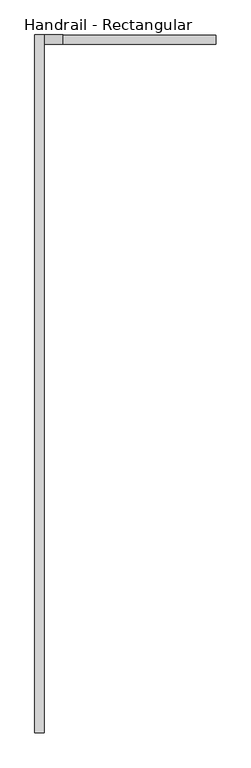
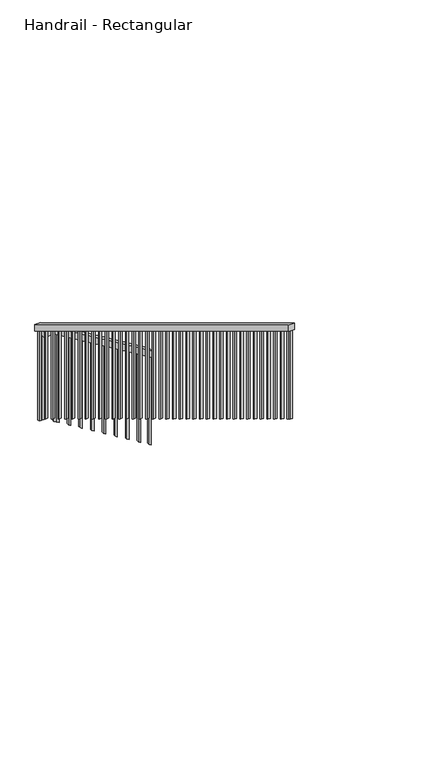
"""IFC4 building model written with IfcOpenShell, lengths in millimetres: railing geometry, Handrail - Rectangular."""

from ifc_helpers import new_model, si_unit, frame, origin, place, context, project, spatial, polyline, outline, extrude, faceted_brep, source, transform, mapped, element, save


def handrail_rectangular_1c47a4d4(model_context):
    return source(origin(), model_context, "Body", "SolidModel", [
        faceted_brep([(-197.9594474, 10218.9797491, 1083.7333333), (-197.9594474, 10218.9797491, 1024.3318731), (-197.9594474, 10269.7797491, 1024.3318731), (-197.9594474, 10269.7797491, 1083.7333333), (-1036.1594474, 10218.9797491, 1591.7333333), (-1050.3518568, 10218.9797491, 1540.9333333), (-1050.3518568, 10269.7797491, 1540.9333333), (-1036.1594474, 10269.7797491, 1591.7333333), (-1140.1500398, 10218.9797491, 1591.7333333), (-1140.1500398, 10269.7797491, 1591.7333333), (-1140.1500398, 10269.7797491, 1540.9333333), (-1140.1500398, 10218.9797491, 1540.9333333)], [[[0, 1, 2, 3]], [[1, 0, 4, 5]], [[2, 1, 5, 6]], [[3, 2, 6, 7]], [[0, 3, 7, 4]], [[8, 9, 10, 11]], [[5, 4, 8, 11]], [[6, 5, 11, 10]], [[7, 6, 10, 9]], [[4, 7, 9, 8]]]),
        faceted_brep([(-1140.1500398, 10269.7797491, 1644.3730124), (-1140.1500398, 10269.7797491, 1584.9715521), (-1190.9500398, 10269.7797491, 1584.9715521), (-1190.9500398, 10269.7797491, 1644.3730124), (-1140.1500398, 6445.0352196, 3962.4), (-1190.9500398, 6445.0352196, 3962.4), (-1190.9500398, 6445.0352196, 3902.9985397), (-1140.1500398, 6445.0352196, 3902.9985397)], [[[0, 1, 2, 3]], [[4, 5, 6, 7]], [[1, 0, 4, 7]], [[2, 1, 7, 6]], [[3, 2, 6, 5]], [[0, 3, 5, 4]]]),
        extrude(outline(polyline([(6494.7047491, 3872.8957946), (6494.7047491, 3060.6784334), (6475.6547491, 3072.223888), (6475.6547491, 3884.4412491), (6494.7047491, 3872.8957946)])), frame((-1175.0750398, 0.0, 0.0), z_axis=(1.0, 0.0, 0.0), x_axis=(0.0, 1.0, 0.0)), (0.0, 0.0, 1.0), 19.05),
        extrude(outline(polyline([(6596.3047491, 3811.320037), (6596.3047491, 2999.1026759), (6577.2547491, 3010.6481304), (6577.2547491, 3822.8654915), (6596.3047491, 3811.320037)])), frame((-1175.0750398, 0.0, 0.0), z_axis=(1.0, 0.0, 0.0), x_axis=(0.0, 1.0, 0.0)), (0.0, 0.0, 1.0), 19.05),
        extrude(outline(polyline([(6697.9047491, 3749.7442794), (6697.9047491, 2937.5269183), (6678.8547491, 2949.0723728), (6678.8547491, 3761.2897339), (6697.9047491, 3749.7442794)])), frame((-1175.0750398, 0.0, 0.0), z_axis=(1.0, 0.0, 0.0), x_axis=(0.0, 1.0, 0.0)), (0.0, 0.0, 1.0), 19.05),
        extrude(outline(polyline([(6799.5047491, 3688.1685218), (6799.5047491, 2875.9511607), (6780.4547491, 2887.4966153), (6780.4547491, 3699.7139764), (6799.5047491, 3688.1685218)])), frame((-1175.0750398, 0.0, 0.0), z_axis=(1.0, 0.0, 0.0), x_axis=(0.0, 1.0, 0.0)), (0.0, 0.0, 1.0), 19.05),
        extrude(outline(polyline([(6901.1047491, 3626.5927643), (6901.1047491, 2814.3754031), (6882.0547491, 2825.9208577), (6882.0547491, 3638.1382188), (6901.1047491, 3626.5927643)])), frame((-1175.0750398, 0.0, 0.0), z_axis=(1.0, 0.0, 0.0), x_axis=(0.0, 1.0, 0.0)), (0.0, 0.0, 1.0), 19.05),
        extrude(outline(polyline([(7002.7047491, 3565.0170067), (7002.7047491, 2752.7996456), (6983.6547491, 2764.3451001), (6983.6547491, 3576.5624612), (7002.7047491, 3565.0170067)])), frame((-1175.0750398, 0.0, 0.0), z_axis=(1.0, 0.0, 0.0), x_axis=(0.0, 1.0, 0.0)), (0.0, 0.0, 1.0), 19.05),
        extrude(outline(polyline([(7104.3047491, 3503.4412491), (7104.3047491, 2691.223888), (7085.2547491, 2702.7693425), (7085.2547491, 3514.9867036), (7104.3047491, 3503.4412491)])), frame((-1175.0750398, 0.0, 0.0), z_axis=(1.0, 0.0, 0.0), x_axis=(0.0, 1.0, 0.0)), (0.0, 0.0, 1.0), 19.05),
        extrude(outline(polyline([(7205.9047491, 3441.8654915), (7205.9047491, 2629.6481304), (7186.8547491, 2641.193585), (7186.8547491, 3453.4109461), (7205.9047491, 3441.8654915)])), frame((-1175.0750398, 0.0, 0.0), z_axis=(1.0, 0.0, 0.0), x_axis=(0.0, 1.0, 0.0)), (0.0, 0.0, 1.0), 19.05),
        extrude(outline(polyline([(7307.5047491, 3380.2897339), (7307.5047491, 2568.0723728), (7288.4547491, 2579.6178274), (7288.4547491, 3391.8351885), (7307.5047491, 3380.2897339)])), frame((-1175.0750398, 0.0, 0.0), z_axis=(1.0, 0.0, 0.0), x_axis=(0.0, 1.0, 0.0)), (0.0, 0.0, 1.0), 19.05),
        extrude(outline(polyline([(7409.1047491, 3318.7139764), (7409.1047491, 2506.4966153), (7390.0547491, 2518.0420698), (7390.0547491, 3330.2594309), (7409.1047491, 3318.7139764)])), frame((-1175.0750398, 0.0, 0.0), z_axis=(1.0, 0.0, 0.0), x_axis=(0.0, 1.0, 0.0)), (0.0, 0.0, 1.0), 19.05),
        extrude(outline(polyline([(7510.7047491, 3257.1382188), (7510.7047491, 2444.9208577), (7491.6547491, 2456.4663122), (7491.6547491, 3268.6836733), (7510.7047491, 3257.1382188)])), frame((-1175.0750398, 0.0, 0.0), z_axis=(1.0, 0.0, 0.0), x_axis=(0.0, 1.0, 0.0)), (0.0, 0.0, 1.0), 19.05),
        extrude(outline(polyline([(7612.3047491, 3195.5624612), (7612.3047491, 2383.3451001), (7593.2547491, 2394.8905546), (7593.2547491, 3207.1079158), (7612.3047491, 3195.5624612)])), frame((-1175.0750398, 0.0, 0.0), z_axis=(1.0, 0.0, 0.0), x_axis=(0.0, 1.0, 0.0)), (0.0, 0.0, 1.0), 19.05),
        extrude(outline(polyline([(7713.9047491, 3133.9867036), (7713.9047491, 2321.7693425), (7694.8547491, 2333.3147971), (7694.8547491, 3145.5321582), (7713.9047491, 3133.9867036)])), frame((-1175.0750398, 0.0, 0.0), z_axis=(1.0, 0.0, 0.0), x_axis=(0.0, 1.0, 0.0)), (0.0, 0.0, 1.0), 19.05),
        extrude(outline(polyline([(7815.5047491, 3072.4109461), (7815.5047491, 2260.193585), (7796.4547491, 2271.7390395), (7796.4547491, 3083.9564006), (7815.5047491, 3072.4109461)])), frame((-1175.0750398, 0.0, 0.0), z_axis=(1.0, 0.0, 0.0), x_axis=(0.0, 1.0, 0.0)), (0.0, 0.0, 1.0), 19.05),
        extrude(outline(polyline([(7917.1047491, 3010.8351885), (7917.1047491, 2198.6178274), (7898.0547491, 2210.1632819), (7898.0547491, 3022.380643), (7917.1047491, 3010.8351885)])), frame((-1175.0750398, 0.0, 0.0), z_axis=(1.0, 0.0, 0.0), x_axis=(0.0, 1.0, 0.0)), (0.0, 0.0, 1.0), 19.05),
        extrude(outline(polyline([(8018.7047491, 2949.2594309), (8018.7047491, 2137.0420698), (7999.6547491, 2148.5875243), (7999.6547491, 2960.8048855), (8018.7047491, 2949.2594309)])), frame((-1175.0750398, 0.0, 0.0), z_axis=(1.0, 0.0, 0.0), x_axis=(0.0, 1.0, 0.0)), (0.0, 0.0, 1.0), 19.05),
        extrude(outline(polyline([(8120.3047491, 2887.6836733), (8120.3047491, 2075.4663122), (8101.2547491, 2087.0117668), (8101.2547491, 2899.2291279), (8120.3047491, 2887.6836733)])), frame((-1175.0750398, 0.0, 0.0), z_axis=(1.0, 0.0, 0.0), x_axis=(0.0, 1.0, 0.0)), (0.0, 0.0, 1.0), 19.05),
        extrude(outline(polyline([(8221.9047491, 2826.1079158), (8221.9047491, 2013.8905546), (8202.8547491, 2025.4360092), (8202.8547491, 2837.6533703), (8221.9047491, 2826.1079158)])), frame((-1175.0750398, 0.0, 0.0), z_axis=(1.0, 0.0, 0.0), x_axis=(0.0, 1.0, 0.0)), (0.0, 0.0, 1.0), 19.05),
        extrude(outline(polyline([(8323.5047491, 2764.5321582), (8323.5047491, 1952.3147971), (8304.4547491, 1963.8602516), (8304.4547491, 2776.0776127), (8323.5047491, 2764.5321582)])), frame((-1175.0750398, 0.0, 0.0), z_axis=(1.0, 0.0, 0.0), x_axis=(0.0, 1.0, 0.0)), (0.0, 0.0, 1.0), 19.05),
        extrude(outline(polyline([(8425.1047491, 2702.9564006), (8425.1047491, 1890.7390395), (8406.0547491, 1902.284494), (8406.0547491, 2714.5018552), (8425.1047491, 2702.9564006)])), frame((-1175.0750398, 0.0, 0.0), z_axis=(1.0, 0.0, 0.0), x_axis=(0.0, 1.0, 0.0)), (0.0, 0.0, 1.0), 19.05),
        extrude(outline(polyline([(8526.7047491, 2641.380643), (8526.7047491, 1829.1632819), (8507.6547491, 1840.7087365), (8507.6547491, 2652.9260976), (8526.7047491, 2641.380643)])), frame((-1175.0750398, 0.0, 0.0), z_axis=(1.0, 0.0, 0.0), x_axis=(0.0, 1.0, 0.0)), (0.0, 0.0, 1.0), 19.05),
        extrude(outline(polyline([(8628.3047491, 2579.8048855), (8628.3047491, 1767.5875243), (8609.2547491, 1779.1329789), (8609.2547491, 2591.35034), (8628.3047491, 2579.8048855)])), frame((-1175.0750398, 0.0, 0.0), z_axis=(1.0, 0.0, 0.0), x_axis=(0.0, 1.0, 0.0)), (0.0, 0.0, 1.0), 19.05),
        extrude(outline(polyline([(8729.9047491, 2518.2291279), (8729.9047491, 1706.0117668), (8710.8547491, 1717.5572213), (8710.8547491, 2529.7745824), (8729.9047491, 2518.2291279)])), frame((-1175.0750398, 0.0, 0.0), z_axis=(1.0, 0.0, 0.0), x_axis=(0.0, 1.0, 0.0)), (0.0, 0.0, 1.0), 19.05),
        extrude(outline(polyline([(8831.5047491, 2456.6533703), (8831.5047491, 1644.4360092), (8812.4547491, 1655.9814637), (8812.4547491, 2468.1988249), (8831.5047491, 2456.6533703)])), frame((-1175.0750398, 0.0, 0.0), z_axis=(1.0, 0.0, 0.0), x_axis=(0.0, 1.0, 0.0)), (0.0, 0.0, 1.0), 19.05),
        extrude(outline(polyline([(8933.1047491, 2395.0776127), (8933.1047491, 1582.8602516), (8914.0547491, 1594.4057062), (8914.0547491, 2406.6230673), (8933.1047491, 2395.0776127)])), frame((-1175.0750398, 0.0, 0.0), z_axis=(1.0, 0.0, 0.0), x_axis=(0.0, 1.0, 0.0)), (0.0, 0.0, 1.0), 19.05),
        extrude(outline(polyline([(9034.7047491, 2333.5018552), (9034.7047491, 1521.284494), (9015.6547491, 1532.8299486), (9015.6547491, 2345.0473097), (9034.7047491, 2333.5018552)])), frame((-1175.0750398, 0.0, 0.0), z_axis=(1.0, 0.0, 0.0), x_axis=(0.0, 1.0, 0.0)), (0.0, 0.0, 1.0), 19.05),
        extrude(outline(polyline([(9136.3047491, 2271.9260976), (9136.3047491, 1459.7087365), (9117.2547491, 1471.254191), (9117.2547491, 2283.4715521), (9136.3047491, 2271.9260976)])), frame((-1175.0750398, 0.0, 0.0), z_axis=(1.0, 0.0, 0.0), x_axis=(0.0, 1.0, 0.0)), (0.0, 0.0, 1.0), 19.05),
        extrude(outline(polyline([(9237.9047491, 2210.35034), (9237.9047491, 1398.1329789), (9218.8547491, 1409.6784334), (9218.8547491, 2221.8957946), (9237.9047491, 2210.35034)])), frame((-1175.0750398, 0.0, 0.0), z_axis=(1.0, 0.0, 0.0), x_axis=(0.0, 1.0, 0.0)), (0.0, 0.0, 1.0), 19.05),
        extrude(outline(polyline([(9339.5047491, 2148.7745824), (9339.5047491, 1336.5572213), (9320.4547491, 1348.1026759), (9320.4547491, 2160.320037), (9339.5047491, 2148.7745824)])), frame((-1175.0750398, 0.0, 0.0), z_axis=(1.0, 0.0, 0.0), x_axis=(0.0, 1.0, 0.0)), (0.0, 0.0, 1.0), 19.05),
        extrude(outline(polyline([(9441.1047491, 2087.1988249), (9441.1047491, 1274.9814637), (9422.0547491, 1286.5269183), (9422.0547491, 2098.7442794), (9441.1047491, 2087.1988249)])), frame((-1175.0750398, 0.0, 0.0), z_axis=(1.0, 0.0, 0.0), x_axis=(0.0, 1.0, 0.0)), (0.0, 0.0, 1.0), 19.05),
        extrude(outline(polyline([(9542.7047491, 2025.6230673), (9542.7047491, 1213.4057062), (9523.6547491, 1224.9511607), (9523.6547491, 2037.1685218), (9542.7047491, 2025.6230673)])), frame((-1175.0750398, 0.0, 0.0), z_axis=(1.0, 0.0, 0.0), x_axis=(0.0, 1.0, 0.0)), (0.0, 0.0, 1.0), 19.05),
        extrude(outline(polyline([(9644.3047491, 1964.0473097), (9644.3047491, 1151.8299486), (9625.2547491, 1163.3754031), (9625.2547491, 1975.5927643), (9644.3047491, 1964.0473097)])), frame((-1175.0750398, 0.0, 0.0), z_axis=(1.0, 0.0, 0.0), x_axis=(0.0, 1.0, 0.0)), (0.0, 0.0, 1.0), 19.05),
        extrude(outline(polyline([(9745.9047491, 1902.4715521), (9745.9047491, 1090.254191), (9726.8547491, 1101.7996456), (9726.8547491, 1914.0170067), (9745.9047491, 1902.4715521)])), frame((-1175.0750398, 0.0, 0.0), z_axis=(1.0, 0.0, 0.0), x_axis=(0.0, 1.0, 0.0)), (0.0, 0.0, 1.0), 19.05),
        extrude(outline(polyline([(9847.5047491, 1840.8957946), (9847.5047491, 1028.6784334), (9828.4547491, 1040.223888), (9828.4547491, 1852.4412491), (9847.5047491, 1840.8957946)])), frame((-1175.0750398, 0.0, 0.0), z_axis=(1.0, 0.0, 0.0), x_axis=(0.0, 1.0, 0.0)), (0.0, 0.0, 1.0), 19.05),
        extrude(outline(polyline([(9949.1047491, 1779.320037), (9949.1047491, 967.1026759), (9930.0547491, 978.6481304), (9930.0547491, 1790.8654915), (9949.1047491, 1779.320037)])), frame((-1175.0750398, 0.0, 0.0), z_axis=(1.0, 0.0, 0.0), x_axis=(0.0, 1.0, 0.0)), (0.0, 0.0, 1.0), 19.05),
        extrude(outline(polyline([(10050.7047491, 1717.7442794), (10050.7047491, 905.5269183), (10031.6547491, 917.0723728), (10031.6547491, 1729.2897339), (10050.7047491, 1717.7442794)])), frame((-1175.0750398, 0.0, 0.0), z_axis=(1.0, 0.0, 0.0), x_axis=(0.0, 1.0, 0.0)), (0.0, 0.0, 1.0), 19.05),
        extrude(outline(polyline([(10152.3047491, 1656.1685218), (10152.3047491, 843.9511607), (10133.2547491, 855.4966153), (10133.2547491, 1667.7139764), (10152.3047491, 1656.1685218)])), frame((-1175.0750398, 0.0, 0.0), z_axis=(1.0, 0.0, 0.0), x_axis=(0.0, 1.0, 0.0)), (0.0, 0.0, 1.0), 19.05),
        extrude(outline(polyline([(-1128.2344474, 10234.8547491), (-1147.2844474, 10234.8547491), (-1147.2844474, 10253.9047491), (-1128.2344474, 10253.9047491), (-1128.2344474, 10234.8547491)])), frame((0.0, 0.0, 772.754191), z_axis=(0.0, 0.0, 1.0), x_axis=(1.0, 0.0, 0.0)), (0.0, 0.0, 1.0), 768.1791423),
        extrude(outline(polyline([(1522.710661, -1020.2844474), (710.4932998, -1020.2844474), (698.9478453, -1001.2344474), (1511.1652064, -1001.2344474), (1522.710661, -1020.2844474)])), frame((0.0, 10234.8547491, 0.0), z_axis=(0.0, 1.0, 0.0), x_axis=(0.0, 0.0, 1.0)), (0.0, 0.0, 1.0), 19.05),
        extrude(outline(polyline([(1461.1349034, -918.6844474), (648.9175423, -918.6844474), (637.3720877, -899.6344474), (1449.5894488, -899.6344474), (1461.1349034, -918.6844474)])), frame((0.0, 10234.8547491, 0.0), z_axis=(0.0, 1.0, 0.0), x_axis=(0.0, 0.0, 1.0)), (0.0, 0.0, 1.0), 19.05),
        extrude(outline(polyline([(1399.5591458, -817.0844474), (587.3417847, -817.0844474), (575.7963301, -798.0344474), (1388.0136913, -798.0344474), (1399.5591458, -817.0844474)])), frame((0.0, 10234.8547491, 0.0), z_axis=(0.0, 1.0, 0.0), x_axis=(0.0, 0.0, 1.0)), (0.0, 0.0, 1.0), 19.05),
        extrude(outline(polyline([(1337.9833882, -715.4844474), (525.7660271, -715.4844474), (514.2205726, -696.4344474), (1326.4379337, -696.4344474), (1337.9833882, -715.4844474)])), frame((0.0, 10234.8547491, 0.0), z_axis=(0.0, 1.0, 0.0), x_axis=(0.0, 0.0, 1.0)), (0.0, 0.0, 1.0), 19.05),
        extrude(outline(polyline([(1276.4076307, -613.8844474), (464.1902695, -613.8844474), (452.644815, -594.8344474), (1264.8621761, -594.8344474), (1276.4076307, -613.8844474)])), frame((0.0, 10234.8547491, 0.0), z_axis=(0.0, 1.0, 0.0), x_axis=(0.0, 0.0, 1.0)), (0.0, 0.0, 1.0), 19.05),
        extrude(outline(polyline([(1214.8318731, -512.2844474), (402.614512, -512.2844474), (391.0690574, -493.2344474), (1203.2864185, -493.2344474), (1214.8318731, -512.2844474)])), frame((0.0, 10234.8547491, 0.0), z_axis=(0.0, 1.0, 0.0), x_axis=(0.0, 0.0, 1.0)), (0.0, 0.0, 1.0), 19.05),
        extrude(outline(polyline([(1153.2561155, -410.6844474), (341.0387544, -410.6844474), (329.4932998, -391.6344474), (1141.710661, -391.6344474), (1153.2561155, -410.6844474)])), frame((0.0, 10234.8547491, 0.0), z_axis=(0.0, 1.0, 0.0), x_axis=(0.0, 0.0, 1.0)), (0.0, 0.0, 1.0), 19.05),
        extrude(outline(polyline([(1091.6803579, -309.0844474), (279.4629968, -309.0844474), (267.9175423, -290.0344474), (1080.1349034, -290.0344474), (1091.6803579, -309.0844474)])), frame((0.0, 10234.8547491, 0.0), z_axis=(0.0, 1.0, 0.0), x_axis=(0.0, 0.0, 1.0)), (0.0, 0.0, 1.0), 19.05),
        extrude(outline(polyline([(10253.9047491, 1594.5927643), (10253.9047491, 772.754191), (10234.8547491, 772.754191), (10234.8547491, 1606.1382188), (10253.9047491, 1594.5927643)])), frame((-1175.0750398, 0.0, 0.0), z_axis=(1.0, 0.0, 0.0), x_axis=(0.0, 1.0, 0.0)), (0.0, 0.0, 1.0), 19.05),
        extrude(outline(polyline([(1538.1046004, -1045.6844474), (725.8872392, -1045.6844474), (714.3417847, -1026.6344474), (1526.5591458, -1026.6344474), (1538.1046004, -1045.6844474)])), frame((0.0, 10234.8547491, 0.0), z_axis=(0.0, 1.0, 0.0), x_axis=(0.0, 0.0, 1.0)), (0.0, 0.0, 1.0), 19.05),
        extrude(outline(polyline([(6464.0852196, 3891.4530852), (6464.0852196, 3079.2357241), (6445.0352196, 3090.7811786), (6445.0352196, 3902.9985397), (6464.0852196, 3891.4530852)])), frame((-1175.0750398, 0.0, 0.0), z_axis=(1.0, 0.0, 0.0), x_axis=(0.0, 1.0, 0.0)), (0.0, 0.0, 1.0), 19.05),
        extrude(outline(polyline([(1035.8773276, -217.0094474), (223.6599665, -217.0094474), (212.114512, -197.9594474), (1024.3318731, -197.9594474), (1035.8773276, -217.0094474)])), frame((0.0, 10234.8547491, 0.0), z_axis=(0.0, 1.0, 0.0), x_axis=(0.0, 0.0, 1.0)), (0.0, 0.0, 1.0), 19.05),
    ])


if __name__ == "__main__":
    model = new_model("IFC4")
    model_context = context("Model", 3, world=origin())
    ifc_project = project(units=[si_unit("LENGTHUNIT", "METRE", prefix="MILLI")], contexts=[model_context])
    site = spatial("IfcSite", under=ifc_project)
    building = spatial("IfcBuilding", under=site)
    placement = place(None, origin())
    handrail_rectangular_shape = handrail_rectangular_1c47a4d4(model_context)
    element("IfcRailing", 1, ObjectType="Handrail - Rectangular", at=placement, inside=building, context=model_context, shape_type="MappedRepresentation", body=[
        mapped(handrail_rectangular_shape, transform((0.0, 0.0, 0.0), x_axis=(1.0, 0.0, 0.0), y_axis=(0.0, 1.0, 0.0), z_axis=(0.0, 0.0, 1.0))),
    ])
    save(model, "model.ifc")
